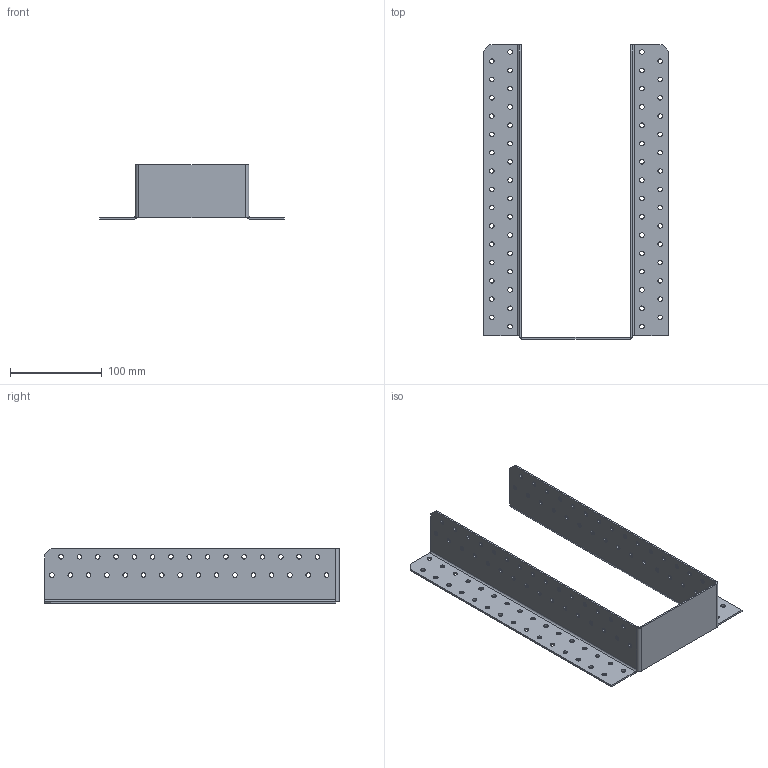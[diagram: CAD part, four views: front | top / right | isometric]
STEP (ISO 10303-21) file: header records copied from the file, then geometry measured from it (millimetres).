
FILE_DESCRIPTION (( 'STEP AP203' ), '1' );
FILE_NAME ('405082.STEP', '2021-04-17T16:39:00', ( '' ), ( '' ), 'SwSTEP 2.0', 'SolidWorks 2013', '' );
FILE_SCHEMA (( 'CONFIG_CONTROL_DESIGN' ));
Length unit declared in the file: millimetre
Products named in the file (1): 405082
Bounding box: 202 x 322 x 60 mm (x, y, z)
Volume: 133774 mm3; surface area: 141233.5 mm2
Topology: 1 solids, 1 shells, 292 faces, 840 edges, 550 vertices
Faces by surface type: cylinder 256, plane 36
Entity records: 10411 total; most frequent: DIRECTION 1940, CARTESIAN_POINT 1683, ORIENTED_EDGE 1680, EDGE_CURVE 840, AXIS2_PLACEMENT_3D 807, VERTEX_POINT 550, EDGE_LOOP 540, CIRCLE 514
